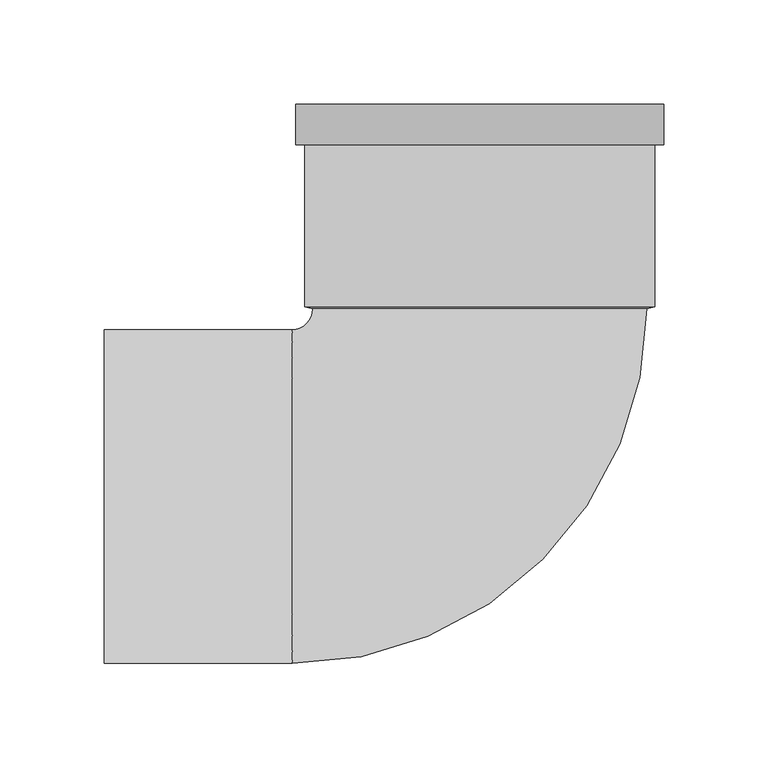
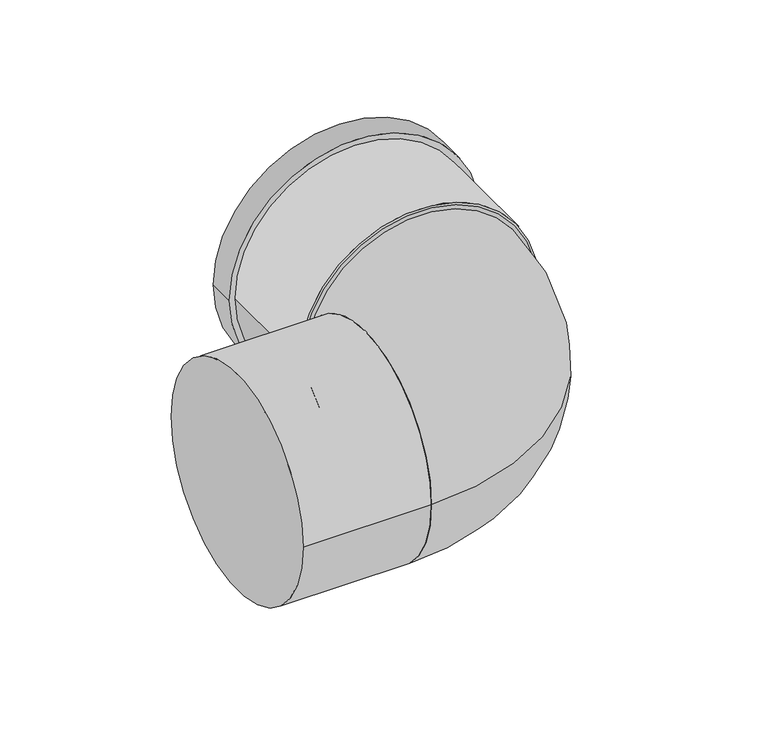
"""IFC4 building model written with IfcOpenShell, lengths in millimetres: pipe fitting geometry, Superdrain SKB Bend : Superdrain SKB Bend."""

from ifc_helpers import new_model, si_unit, point, frame, origin, origin_2d, place, context, project, spatial, polyline, circle_curve, ellipse_curve, trimmed, segment, composite_curve, outline, extrude, source, transform, mapped, element, save
from ifc_brep_helpers import plane_surface, revolved_surface, advanced_brep


def pipe_fitting_a0dc6f73(model_context):
    return source(origin(), model_context, "Body", "SolidModel", [
        advanced_brep(
        [(80.0, 90.0, 0.0), (-80.0, 90.0, 0.0), (-90.0, -80.0, 0.0), (-90.0, 80.0, 0.0)],
        [
            (0, 1, circle_curve(frame((0.0, 90.0, 0.0), z_axis=(0.0, 1.0, 0.0), x_axis=(-1.0, 0.0, 0.0)), 80.0)),
            (1, 0, circle_curve(frame((0.0, 90.0, 0.0), z_axis=(0.0, 1.0, 0.0), x_axis=(-1.0, 0.0, 0.0)), 80.0)),
            (2, 3, circle_curve(frame((-90.0, 0.0, 0.0), z_axis=(-1.0, 0.0, 0.0), x_axis=(0.0, 1.0, 0.0)), 80.0)),
            (3, 2, circle_curve(frame((-90.0, 0.0, 0.0), z_axis=(-1.0, 0.0, 0.0), x_axis=(0.0, 1.0, 0.0)), 80.0)),
            (3, 1, circle_curve(frame((-90.0, 90.0, 0.0), z_axis=(0.0, 0.0, 1.0), x_axis=(1.0, 0.0, 0.0)), 10.0)),
            (0, 2, circle_curve(frame((-90.0, 90.0, 0.0), z_axis=(0.0, 0.0, -1.0), x_axis=(1.0, 0.0, 0.0)), 170.0)),
        ],
        [
            plane_surface(frame((0.0, 90.0, 0.0), z_axis=(0.0, 1.0, 0.0), x_axis=(0.0, 0.0, -1.0))),
            plane_surface(frame((-90.0, 0.0, 0.0), z_axis=(-1.0, 0.0, 0.0), x_axis=(0.0, 0.0, -1.0))),
            revolved_surface(trimmed(ellipse_curve(frame((0.0, 90.0, 0.0), z_axis=(0.0, -1.0, 0.0), x_axis=(-1.0, 0.0, 0.0)), 80.0, 80.0), [point((-80.0, 90.0, 0.0))], [point((80.0, 90.0, 0.0))], True, "CARTESIAN"), (-90.0, 90.0, 0.0), (0.0, 0.0, 1.0)),
            revolved_surface(trimmed(ellipse_curve(frame((0.0, 90.0, 0.0), z_axis=(0.0, -1.0, 0.0), x_axis=(-1.0, 0.0, 0.0)), 80.0, 80.0), [point((80.0, 90.0, 0.0))], [point((-80.0, 90.0, 0.0))], True, "CARTESIAN"), (-90.0, 90.0, 0.0), (0.0, 0.0, 1.0)),
        ],
        [
            (0, [[1, 2]]),
            (1, [[3, 4]]),
            (2, [[-4, 5, -1, 6]]),
            (3, [[-3, -6, -2, -5]]),
        ],
    ),
        extrude(outline(composite_curve([segment(trimmed(circle_curve(origin_2d(), 84.0), [point((0.0, 84.0))], [point((0.0, -84.0))], False, "CARTESIAN"), True, "CONTINUOUS"), segment(trimmed(circle_curve(origin_2d(), 84.0), [point((0.0, -84.0))], [point((0.0, 84.0))], False, "CARTESIAN"), True, "CONTINUOUS")], self_intersect=False), holes=[composite_curve([segment(trimmed(circle_curve(origin_2d(), 80.0), [point((0.0, 80.0))], [point((0.0, -80.0))], True, "CARTESIAN"), True, "CONTINUOUS"), segment(trimmed(circle_curve(origin_2d(), 80.0), [point((0.0, -80.0))], [point((0.0, 80.0))], True, "CARTESIAN"), True, "CONTINUOUS")], self_intersect=False)]), frame((0.0, 91.0, 0.0), z_axis=(0.0, 1.0, 0.0), x_axis=(0.0, 0.0, 1.0)), (0.0, 0.0, 1.0), 97.0),
        extrude(outline(composite_curve([segment(trimmed(circle_curve(origin_2d(), 88.2), [point((0.0, -88.2))], [point((0.0, 88.2))], False, "CARTESIAN"), True, "CONTINUOUS"), segment(trimmed(circle_curve(origin_2d(), 88.2), [point((0.0, 88.2))], [point((0.0, -88.2))], False, "CARTESIAN"), True, "CONTINUOUS")], self_intersect=False), holes=[composite_curve([segment(trimmed(circle_curve(origin_2d(), 80.0), [point((0.0, -80.0))], [point((0.0, 80.0))], True, "CARTESIAN"), True, "CONTINUOUS"), segment(trimmed(circle_curve(origin_2d(), 80.0), [point((0.0, 80.0))], [point((0.0, -80.0))], True, "CARTESIAN"), True, "CONTINUOUS")], self_intersect=False)]), frame((0.0, 168.6, 0.0), z_axis=(0.0, 1.0, 0.0), x_axis=(0.0, 0.0, 1.0)), (0.0, 0.0, 1.0), 19.4),
        advanced_brep(
        [(84.0, 91.0, 0.0), (-84.0, 91.0, 0.0), (80.0, 90.0, 0.0), (-80.0, 90.0, 0.0)],
        [
            (0, 1, circle_curve(frame((0.0, 91.0, 0.0), z_axis=(0.0, 1.0, 0.0), x_axis=(1.0, 0.0, 0.0)), 84.0)),
            (1, 0, circle_curve(frame((0.0, 91.0, 0.0), z_axis=(0.0, 1.0, 0.0), x_axis=(-1.0, 0.0, 0.0)), 84.0)),
            (2, 3, circle_curve(frame((0.0, 90.0, 0.0), z_axis=(0.0, -1.0, 0.0), x_axis=(-1.0, 0.0, 0.0)), 80.0)),
            (3, 2, circle_curve(frame((0.0, 90.0, 0.0), z_axis=(0.0, -1.0, 0.0), x_axis=(1.0, 0.0, 0.0)), 80.0)),
            (3, 1),
            (0, 2),
        ],
        [
            plane_surface(frame((0.0, 91.0, 0.0), z_axis=(0.0, 1.0, 0.0), x_axis=(0.0, 0.0, -1.0))),
            plane_surface(frame((0.0, 90.0, 0.0), z_axis=(0.0, -1.0, 0.0), x_axis=(0.0, 0.0, -1.0))),
            revolved_surface(polyline([(-80.0, 90.0, 0.0), (-84.0, 91.0, 0.0)]), (0.0, 70.0, 0.0), (0.0, 1.0, 0.0)),
            revolved_surface(polyline([(80.0, 90.0, 0.0), (84.0, 91.0, 0.0)]), (0.0, 70.0, 0.0), (0.0, 1.0, 0.0)),
        ],
        [
            (0, [[1, 2]]),
            (1, [[3, 4]]),
            (2, [[-4, 5, -1, 6]]),
            (3, [[-3, -6, -2, -5]]),
        ],
    ),
        extrude(outline(composite_curve([segment(trimmed(circle_curve(origin_2d(), 80.0), [point((-80.0, 0.0))], [point((80.0, 0.0))], False, "CARTESIAN"), True, "CONTINUOUS"), segment(trimmed(circle_curve(origin_2d(), 80.0), [point((80.0, 0.0))], [point((-80.0, 0.0))], False, "CARTESIAN"), True, "CONTINUOUS")], self_intersect=False)), frame((-180.0, 0.0, 0.0), z_axis=(1.0, 0.0, 0.0), x_axis=(0.0, 1.0, 0.0)), (0.0, 0.0, 1.0), 90.0),
    ])


if __name__ == "__main__":
    model = new_model("IFC4")
    model_context = context("Model", 3, world=origin())
    ifc_project = project(units=[si_unit("LENGTHUNIT", "METRE", prefix="MILLI")], contexts=[model_context])
    site = spatial("IfcSite", under=ifc_project)
    building = spatial("IfcBuilding", under=site)
    placement = place(None, origin())
    pipe_fitting_shape = pipe_fitting_a0dc6f73(model_context)
    element("IfcPipeFitting", 1, ObjectType="Superdrain SKB Bend : Superdrain SKB Bend", at=placement, inside=building, context=model_context, shape_type="MappedRepresentation", body=[
        mapped(pipe_fitting_shape, transform((0.0, 0.0, 0.0), x_axis=(1.0, 0.0, 0.0), y_axis=(0.0, 1.0, 0.0), z_axis=(0.0, 0.0, 1.0))),
    ])
    save(model, "model.ifc")
